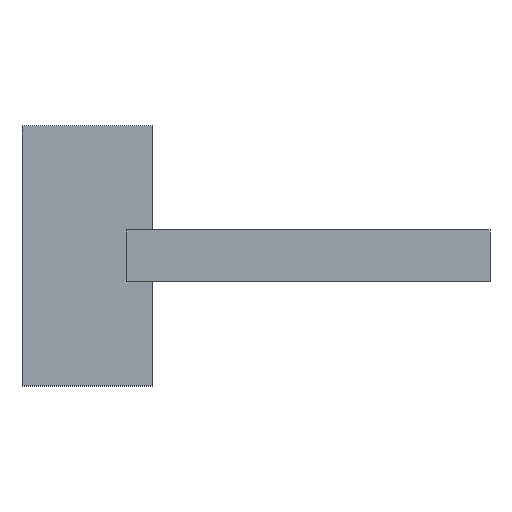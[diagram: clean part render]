
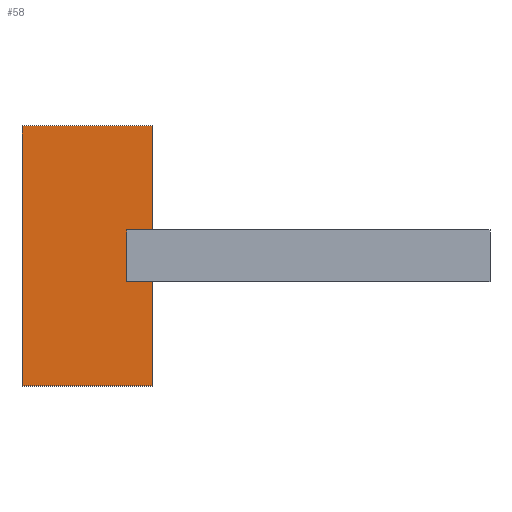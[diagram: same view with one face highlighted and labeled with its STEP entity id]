
A CAD part, top view. The second image highlights one B-rep face of the part: STEP entity #58.
In plain terms, the highlighted planar face has unit normal (0, 0, 1).
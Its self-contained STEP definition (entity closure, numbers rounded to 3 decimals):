
#58=ADVANCED_FACE('',(#166),#168,.T.);
#166=FACE_BOUND('',#167,.T.);
#167=EDGE_LOOP('',(#250,#251,#252,#253,#254,#255,#256,#257));
#168=PLANE('',#169);
#169=AXIS2_PLACEMENT_3D('',#170,#171,#172);
#170=CARTESIAN_POINT('',(0.,0.,0.635));
#171=DIRECTION('',(0.,0.,1.));
#172=DIRECTION('',(-1.,0.,0.));
#250=ORIENTED_EDGE('',*,*,#306,.F.);
#251=ORIENTED_EDGE('',*,*,#307,.F.);
#252=ORIENTED_EDGE('',*,*,#308,.F.);
#253=ORIENTED_EDGE('',*,*,#309,.T.);
#254=ORIENTED_EDGE('',*,*,#310,.T.);
#255=ORIENTED_EDGE('',*,*,#311,.T.);
#256=ORIENTED_EDGE('',*,*,#312,.T.);
#257=ORIENTED_EDGE('',*,*,#313,.T.);
#306=EDGE_CURVE('',#334,#335,#336,.T.);
#307=EDGE_CURVE('',#337,#334,#338,.T.);
#308=EDGE_CURVE('',#339,#337,#340,.T.);
#309=EDGE_CURVE('',#339,#341,#342,.T.);
#310=EDGE_CURVE('',#341,#343,#344,.T.);
#311=EDGE_CURVE('',#343,#345,#346,.T.);
#312=EDGE_CURVE('',#345,#347,#348,.T.);
#313=EDGE_CURVE('',#347,#335,#349,.T.);
#334=VERTEX_POINT('',#380);
#335=VERTEX_POINT('',#381);
#336=LINE('',#382,#383);
#337=VERTEX_POINT('',#385);
#338=LINE('',#386,#387);
#339=VERTEX_POINT('',#389);
#340=LINE('',#390,#391);
#341=VERTEX_POINT('',#393);
#342=LINE('',#394,#395);
#343=VERTEX_POINT('',#397);
#344=LINE('',#398,#399);
#345=VERTEX_POINT('',#401);
#346=LINE('',#402,#403);
#347=VERTEX_POINT('',#405);
#348=LINE('',#406,#407);
#349=LINE('',#409,#410);
#380=CARTESIAN_POINT('',(0.763,-0.5,0.635));
#381=CARTESIAN_POINT('',(1.25,-0.5,0.635));
#382=CARTESIAN_POINT('',(0.763,-0.5,0.635));
#383=VECTOR('',#384,1.);
#384=DIRECTION('',(1.,0.,0.));
#385=CARTESIAN_POINT('',(0.763,0.5,0.635));
#386=CARTESIAN_POINT('',(0.763,0.5,0.635));
#387=VECTOR('',#388,1.);
#388=DIRECTION('',(0.,-1.,0.));
#389=CARTESIAN_POINT('',(1.25,0.5,0.635));
#390=CARTESIAN_POINT('',(1.25,0.5,0.635));
#391=VECTOR('',#392,1.);
#392=DIRECTION('',(-1.,0.,0.));
#393=CARTESIAN_POINT('',(1.25,2.5,0.635));
#394=CARTESIAN_POINT('',(1.25,0.5,0.635));
#395=VECTOR('',#396,1.);
#396=DIRECTION('',(0.,1.,0.));
#397=CARTESIAN_POINT('',(-1.25,2.5,0.635));
#398=CARTESIAN_POINT('',(1.25,2.5,0.635));
#399=VECTOR('',#400,1.);
#400=DIRECTION('',(-1.,0.,0.));
#401=CARTESIAN_POINT('',(-1.25,-2.5,0.635));
#402=CARTESIAN_POINT('',(-1.25,2.5,0.635));
#403=VECTOR('',#404,1.);
#404=DIRECTION('',(0.,-1.,0.));
#405=CARTESIAN_POINT('',(1.25,-2.5,0.635));
#406=CARTESIAN_POINT('',(-1.25,-2.5,0.635));
#407=VECTOR('',#408,1.);
#408=DIRECTION('',(1.,0.,0.));
#409=CARTESIAN_POINT('',(1.25,-2.5,0.635));
#410=VECTOR('',#411,1.);
#411=DIRECTION('',(0.,1.,0.));
